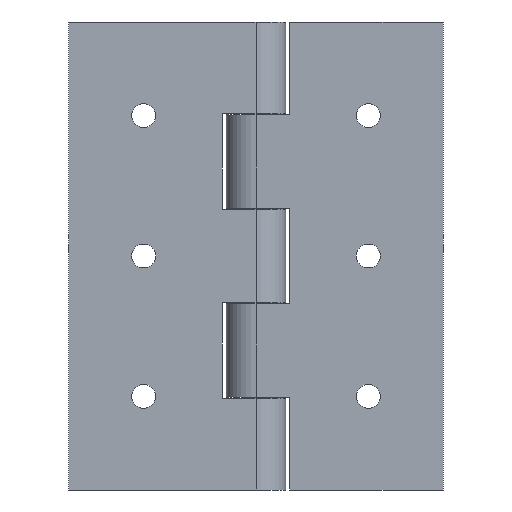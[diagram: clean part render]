
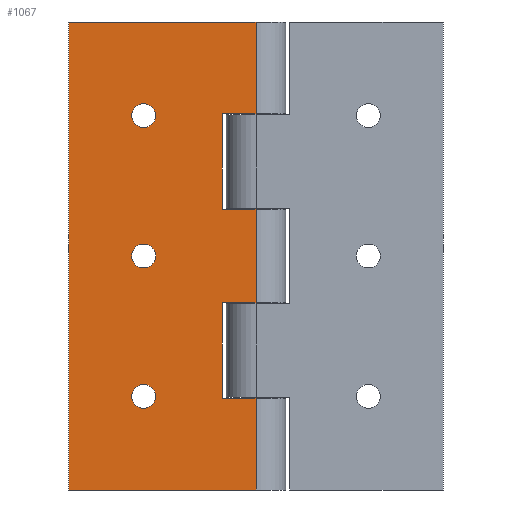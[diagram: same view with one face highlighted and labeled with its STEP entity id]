
A CAD part, front view. The second image highlights one B-rep face of the part: STEP entity #1067.
In plain terms, the highlighted planar face has unit normal (0, -1, 0).
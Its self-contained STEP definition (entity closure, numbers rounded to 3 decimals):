
#6 = CARTESIAN_POINT ( 'NONE',  ( 0., -8., 62.5 ) ) ;
#27 = EDGE_CURVE ( 'NONE', #739, #263, #57, .T. ) ;
#40 = DIRECTION ( 'NONE',  ( 0., 0., 1. ) ) ;
#41 = EDGE_CURVE ( 'NONE', #1512, #202, #499, .T. ) ;
#48 = ORIENTED_EDGE ( 'NONE', *, *, #2030, .T. ) ;
#51 = LINE ( 'NONE', #913, #2028 ) ;
#57 = CIRCLE ( 'NONE', #1099, 3.2 ) ;
#60 = EDGE_CURVE ( 'NONE', #1314, #2163, #951, .T. ) ;
#73 = CARTESIAN_POINT ( 'NONE',  ( -9., -8., 12.5 ) ) ;
#77 = DIRECTION ( 'NONE',  ( -1., 0., 0. ) ) ;
#88 = CARTESIAN_POINT ( 'NONE',  ( -9., -8., -38. ) ) ;
#96 = CARTESIAN_POINT ( 'NONE',  ( -30., -8., -40.7 ) ) ;
#98 = AXIS2_PLACEMENT_3D ( 'NONE', #1776, #1571, #1383 ) ;
#107 = EDGE_CURVE ( 'NONE', #1828, #1041, #1398, .T. ) ;
#127 = VERTEX_POINT ( 'NONE', #1684 ) ;
#157 = CARTESIAN_POINT ( 'NONE',  ( 0., -8., 62.5 ) ) ;
#160 = ORIENTED_EDGE ( 'NONE', *, *, #1044, .T. ) ;
#174 = LINE ( 'NONE', #727, #1569 ) ;
#197 = DIRECTION ( 'NONE',  ( -1., 0., 0. ) ) ;
#198 = FACE_BOUND ( 'NONE', #1971, .T. ) ;
#202 = VERTEX_POINT ( 'NONE', #695 ) ;
#211 = ORIENTED_EDGE ( 'NONE', *, *, #423, .F. ) ;
#213 = EDGE_CURVE ( 'NONE', #2304, #1917, #2176, .T. ) ;
#258 = EDGE_CURVE ( 'NONE', #1109, #2007, #1031, .T. ) ;
#263 = VERTEX_POINT ( 'NONE', #96 ) ;
#309 = CARTESIAN_POINT ( 'NONE',  ( -30., -8., -37.5 ) ) ;
#352 = VERTEX_POINT ( 'NONE', #1181 ) ;
#396 = VECTOR ( 'NONE', #2373, 1000. ) ;
#414 = VERTEX_POINT ( 'NONE', #1328 ) ;
#423 = EDGE_CURVE ( 'NONE', #595, #2163, #1753, .T. ) ;
#434 = LINE ( 'NONE', #6, #1913 ) ;
#436 = VECTOR ( 'NONE', #2074, 1000. ) ;
#443 = DIRECTION ( 'NONE',  ( 0., 1., 0. ) ) ;
#449 = DIRECTION ( 'NONE',  ( 0., 1., 0. ) ) ;
#463 = LINE ( 'NONE', #1348, #1941 ) ;
#471 = ORIENTED_EDGE ( 'NONE', *, *, #213, .T. ) ;
#476 = ORIENTED_EDGE ( 'NONE', *, *, #107, .F. ) ;
#482 = CARTESIAN_POINT ( 'NONE',  ( 0., -8., 62.5 ) ) ;
#499 = CIRCLE ( 'NONE', #1222, 3.2 ) ;
#528 = VECTOR ( 'NONE', #77, 1000. ) ;
#539 = DIRECTION ( 'NONE',  ( 0., 0., 1. ) ) ;
#550 = AXIS2_PLACEMENT_3D ( 'NONE', #1962, #801, #40 ) ;
#581 = CIRCLE ( 'NONE', #1143, 3.2 ) ;
#595 = VERTEX_POINT ( 'NONE', #157 ) ;
#612 = DIRECTION ( 'NONE',  ( 0., 0., -1. ) ) ;
#618 = PLANE ( 'NONE',  #98 ) ;
#621 = CARTESIAN_POINT ( 'NONE',  ( -50., -8., -62.5 ) ) ;
#622 = CARTESIAN_POINT ( 'NONE',  ( -9., -8., 38. ) ) ;
#648 = CARTESIAN_POINT ( 'NONE',  ( -30., -8., 40.7 ) ) ;
#685 = CARTESIAN_POINT ( 'NONE',  ( -9., -8., 12.5 ) ) ;
#695 = CARTESIAN_POINT ( 'NONE',  ( -30., -8., 34.3 ) ) ;
#713 = FACE_BOUND ( 'NONE', #1144, .T. ) ;
#720 = VERTEX_POINT ( 'NONE', #2426 ) ;
#727 = CARTESIAN_POINT ( 'NONE',  ( -9., -8., 12.5 ) ) ;
#739 = VERTEX_POINT ( 'NONE', #1741 ) ;
#743 = VECTOR ( 'NONE', #2474, 1000. ) ;
#793 = LINE ( 'NONE', #2479, #743 ) ;
#801 = DIRECTION ( 'NONE',  ( 0., 1., 0. ) ) ;
#810 = CARTESIAN_POINT ( 'NONE',  ( 0., -8., 12.5 ) ) ;
#819 = DIRECTION ( 'NONE',  ( 0., 1., 0. ) ) ;
#894 = VECTOR ( 'NONE', #197, 1000. ) ;
#908 = CARTESIAN_POINT ( 'NONE',  ( -9., -8., -12.5 ) ) ;
#913 = CARTESIAN_POINT ( 'NONE',  ( 0., -8., 62.5 ) ) ;
#935 = CARTESIAN_POINT ( 'NONE',  ( -30., -8., 37.5 ) ) ;
#951 = LINE ( 'NONE', #622, #436 ) ;
#968 = EDGE_CURVE ( 'NONE', #1109, #127, #434, .T. ) ;
#989 = ORIENTED_EDGE ( 'NONE', *, *, #1338, .T. ) ;
#1001 = ORIENTED_EDGE ( 'NONE', *, *, #1840, .T. ) ;
#1021 = CARTESIAN_POINT ( 'NONE',  ( -50., -8., 62.5 ) ) ;
#1031 = LINE ( 'NONE', #685, #1487 ) ;
#1041 = VERTEX_POINT ( 'NONE', #621 ) ;
#1044 = EDGE_CURVE ( 'NONE', #720, #1795, #2295, .T. ) ;
#1067 = ADVANCED_FACE ( 'NONE', ( #2234, #1213, #713, #198 ), #618, .T. ) ;
#1097 = ORIENTED_EDGE ( 'NONE', *, *, #258, .T. ) ;
#1099 = AXIS2_PLACEMENT_3D ( 'NONE', #309, #1853, #2077 ) ;
#1109 = VERTEX_POINT ( 'NONE', #810 ) ;
#1143 = AXIS2_PLACEMENT_3D ( 'NONE', #2365, #443, #1585 ) ;
#1144 = EDGE_LOOP ( 'NONE', ( #1196, #160 ) ) ;
#1160 = VECTOR ( 'NONE', #1275, 1000. ) ;
#1175 = ORIENTED_EDGE ( 'NONE', *, *, #1384, .T. ) ;
#1178 = EDGE_CURVE ( 'NONE', #352, #1828, #463, .T. ) ;
#1181 = CARTESIAN_POINT ( 'NONE',  ( 0., -8., -38. ) ) ;
#1196 = ORIENTED_EDGE ( 'NONE', *, *, #1673, .T. ) ;
#1213 = FACE_BOUND ( 'NONE', #2244, .T. ) ;
#1222 = AXIS2_PLACEMENT_3D ( 'NONE', #1669, #449, #1801 ) ;
#1275 = DIRECTION ( 'NONE',  ( 0., 0., 1. ) ) ;
#1289 = EDGE_CURVE ( 'NONE', #1917, #127, #793, .T. ) ;
#1290 = CARTESIAN_POINT ( 'NONE',  ( 0., -8., 38. ) ) ;
#1310 = ORIENTED_EDGE ( 'NONE', *, *, #1501, .T. ) ;
#1314 = VERTEX_POINT ( 'NONE', #1691 ) ;
#1319 = DIRECTION ( 'NONE',  ( 0., 0., 1. ) ) ;
#1326 = CARTESIAN_POINT ( 'NONE',  ( 0., -8., -62.5 ) ) ;
#1328 = CARTESIAN_POINT ( 'NONE',  ( -50., -8., 62.5 ) ) ;
#1338 = EDGE_CURVE ( 'NONE', #2007, #1314, #174, .T. ) ;
#1348 = CARTESIAN_POINT ( 'NONE',  ( 0., -8., 62.5 ) ) ;
#1383 = DIRECTION ( 'NONE',  ( 1., 0., 0. ) ) ;
#1384 = EDGE_CURVE ( 'NONE', #595, #414, #51, .T. ) ;
#1398 = LINE ( 'NONE', #1507, #894 ) ;
#1417 = LINE ( 'NONE', #1021, #396 ) ;
#1423 = DIRECTION ( 'NONE',  ( -1., 0., 0. ) ) ;
#1487 = VECTOR ( 'NONE', #1423, 1000. ) ;
#1501 = EDGE_CURVE ( 'NONE', #352, #2304, #1535, .T. ) ;
#1507 = CARTESIAN_POINT ( 'NONE',  ( 0., -8., -62.5 ) ) ;
#1512 = VERTEX_POINT ( 'NONE', #648 ) ;
#1535 = LINE ( 'NONE', #88, #528 ) ;
#1546 = ORIENTED_EDGE ( 'NONE', *, *, #27, .T. ) ;
#1550 = ORIENTED_EDGE ( 'NONE', *, *, #1573, .T. ) ;
#1569 = VECTOR ( 'NONE', #539, 1000. ) ;
#1571 = DIRECTION ( 'NONE',  ( 0., -1., 0. ) ) ;
#1573 = EDGE_CURVE ( 'NONE', #414, #1041, #1417, .T. ) ;
#1585 = DIRECTION ( 'NONE',  ( 0., 0., 1. ) ) ;
#1642 = ORIENTED_EDGE ( 'NONE', *, *, #968, .F. ) ;
#1669 = CARTESIAN_POINT ( 'NONE',  ( -30., -8., 37.5 ) ) ;
#1673 = EDGE_CURVE ( 'NONE', #1795, #720, #2199, .T. ) ;
#1684 = CARTESIAN_POINT ( 'NONE',  ( 0., -8., -12.5 ) ) ;
#1691 = CARTESIAN_POINT ( 'NONE',  ( -9., -8., 38. ) ) ;
#1702 = CARTESIAN_POINT ( 'NONE',  ( -9., -8., -38. ) ) ;
#1741 = CARTESIAN_POINT ( 'NONE',  ( -30., -8., -34.3 ) ) ;
#1753 = LINE ( 'NONE', #482, #2093 ) ;
#1776 = CARTESIAN_POINT ( 'NONE',  ( 0., -8., 62.5 ) ) ;
#1795 = VERTEX_POINT ( 'NONE', #1915 ) ;
#1801 = DIRECTION ( 'NONE',  ( 0., 0., 1. ) ) ;
#1819 = ORIENTED_EDGE ( 'NONE', *, *, #1289, .T. ) ;
#1828 = VERTEX_POINT ( 'NONE', #1326 ) ;
#1831 = ORIENTED_EDGE ( 'NONE', *, *, #60, .T. ) ;
#1834 = AXIS2_PLACEMENT_3D ( 'NONE', #935, #2088, #1319 ) ;
#1840 = EDGE_CURVE ( 'NONE', #202, #1512, #2483, .T. ) ;
#1853 = DIRECTION ( 'NONE',  ( 0., 1., 0. ) ) ;
#1898 = DIRECTION ( 'NONE',  ( 0., 0., -1. ) ) ;
#1913 = VECTOR ( 'NONE', #1898, 1000. ) ;
#1915 = CARTESIAN_POINT ( 'NONE',  ( -30., -8., 3.2 ) ) ;
#1917 = VERTEX_POINT ( 'NONE', #908 ) ;
#1939 = AXIS2_PLACEMENT_3D ( 'NONE', #2154, #819, #2166 ) ;
#1941 = VECTOR ( 'NONE', #612, 1000. ) ;
#1962 = CARTESIAN_POINT ( 'NONE',  ( -30., -8., 0. ) ) ;
#1971 = EDGE_LOOP ( 'NONE', ( #2243, #1001 ) ) ;
#1979 = CARTESIAN_POINT ( 'NONE',  ( -9., -8., -38. ) ) ;
#2007 = VERTEX_POINT ( 'NONE', #73 ) ;
#2028 = VECTOR ( 'NONE', #2057, 1000. ) ;
#2030 = EDGE_CURVE ( 'NONE', #263, #739, #581, .T. ) ;
#2057 = DIRECTION ( 'NONE',  ( -1., 0., 0. ) ) ;
#2074 = DIRECTION ( 'NONE',  ( 1., 0., 0. ) ) ;
#2077 = DIRECTION ( 'NONE',  ( 0., 0., 1. ) ) ;
#2088 = DIRECTION ( 'NONE',  ( 0., 1., 0. ) ) ;
#2093 = VECTOR ( 'NONE', #2195, 1000. ) ;
#2154 = CARTESIAN_POINT ( 'NONE',  ( -30., -8., 0. ) ) ;
#2163 = VERTEX_POINT ( 'NONE', #1290 ) ;
#2166 = DIRECTION ( 'NONE',  ( 0., 0., 1. ) ) ;
#2176 = LINE ( 'NONE', #1979, #1160 ) ;
#2195 = DIRECTION ( 'NONE',  ( 0., 0., -1. ) ) ;
#2199 = CIRCLE ( 'NONE', #550, 3.2 ) ;
#2234 = FACE_OUTER_BOUND ( 'NONE', #2395, .T. ) ;
#2243 = ORIENTED_EDGE ( 'NONE', *, *, #41, .T. ) ;
#2244 = EDGE_LOOP ( 'NONE', ( #1546, #48 ) ) ;
#2295 = CIRCLE ( 'NONE', #1939, 3.2 ) ;
#2304 = VERTEX_POINT ( 'NONE', #1702 ) ;
#2365 = CARTESIAN_POINT ( 'NONE',  ( -30., -8., -37.5 ) ) ;
#2373 = DIRECTION ( 'NONE',  ( 0., 0., -1. ) ) ;
#2395 = EDGE_LOOP ( 'NONE', ( #1310, #471, #1819, #1642, #1097, #989, #1831, #211, #1175, #1550, #476, #2463 ) ) ;
#2426 = CARTESIAN_POINT ( 'NONE',  ( -30., -8., -3.2 ) ) ;
#2463 = ORIENTED_EDGE ( 'NONE', *, *, #1178, .F. ) ;
#2474 = DIRECTION ( 'NONE',  ( 1., 0., 0. ) ) ;
#2479 = CARTESIAN_POINT ( 'NONE',  ( -9., -8., -12.5 ) ) ;
#2483 = CIRCLE ( 'NONE', #1834, 3.2 ) ;
